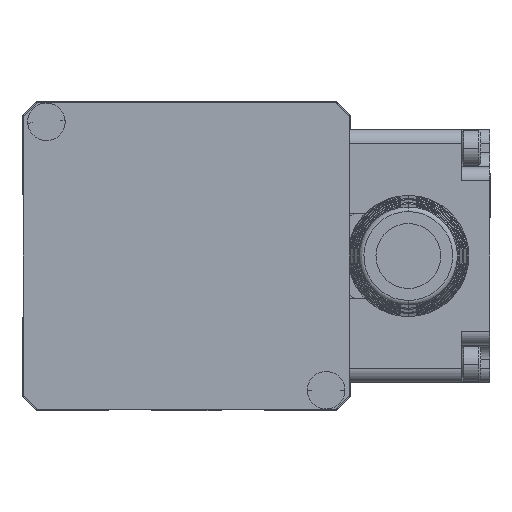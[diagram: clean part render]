
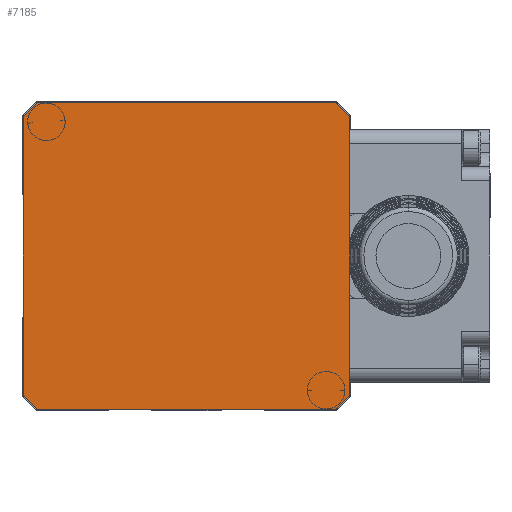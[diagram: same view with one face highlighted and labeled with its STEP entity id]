
A CAD part, front view. The second image highlights one B-rep face of the part: STEP entity #7185.
In plain terms, the highlighted planar face has unit normal (0, -1, 0).
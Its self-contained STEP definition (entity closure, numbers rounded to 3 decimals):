
#269 = EDGE_LOOP ( 'NONE', ( #10942, #4807, #19112, #9821, #24475, #18297, #7223, #3336 ) ) ;
#690 = CARTESIAN_POINT ( 'NONE',  ( 15.85, -22.5, -15.35 ) ) ;
#857 = VECTOR ( 'NONE', #19762, 1000. ) ;
#1185 = DIRECTION ( 'NONE',  ( 0.707, 0., 0.707 ) ) ;
#2061 = VERTEX_POINT ( 'NONE', #7146 ) ;
#2142 = DIRECTION ( 'NONE',  ( 0., 0., 1. ) ) ;
#2730 = CARTESIAN_POINT ( 'NONE',  ( -17.35, -22.5, 17.35 ) ) ;
#3285 = EDGE_CURVE ( 'NONE', #11824, #24289, #18587, .T. ) ;
#3336 = ORIENTED_EDGE ( 'NONE', *, *, #15272, .F. ) ;
#4056 = CARTESIAN_POINT ( 'NONE',  ( -15.85, -22.5, -15.35 ) ) ;
#4807 = ORIENTED_EDGE ( 'NONE', *, *, #8003, .F. ) ;
#5267 = VECTOR ( 'NONE', #21750, 1000. ) ;
#5325 = CARTESIAN_POINT ( 'NONE',  ( 15.85, -22.5, -15.35 ) ) ;
#5580 = VERTEX_POINT ( 'NONE', #6233 ) ;
#6233 = CARTESIAN_POINT ( 'NONE',  ( 15.85, -22.5, 17.35 ) ) ;
#6642 = VERTEX_POINT ( 'NONE', #690 ) ;
#6690 = VERTEX_POINT ( 'NONE', #21475 ) ;
#7104 = FACE_OUTER_BOUND ( 'NONE', #269, .T. ) ;
#7146 = CARTESIAN_POINT ( 'NONE',  ( -17.35, -22.5, 15.85 ) ) ;
#7185 = ADVANCED_FACE ( 'NONE', ( #7104 ), #15548, .F. ) ;
#7223 = ORIENTED_EDGE ( 'NONE', *, *, #3285, .T. ) ;
#8003 = EDGE_CURVE ( 'NONE', #24939, #6690, #19374, .T. ) ;
#8087 = CARTESIAN_POINT ( 'NONE',  ( -17.35, -22.5, -15.35 ) ) ;
#8842 = CARTESIAN_POINT ( 'NONE',  ( 17.35, -22.5, -15.35 ) ) ;
#9821 = ORIENTED_EDGE ( 'NONE', *, *, #19923, .F. ) ;
#9921 = VECTOR ( 'NONE', #20146, 1000. ) ;
#10407 = CARTESIAN_POINT ( 'NONE',  ( -17.35, -22.5, -13.85 ) ) ;
#10595 = VERTEX_POINT ( 'NONE', #17057 ) ;
#10743 = CARTESIAN_POINT ( 'NONE',  ( -17.35, -22.5, -15.35 ) ) ;
#10908 = LINE ( 'NONE', #24645, #11106 ) ;
#10942 = ORIENTED_EDGE ( 'NONE', *, *, #12232, .T. ) ;
#11106 = VECTOR ( 'NONE', #26854, 1000. ) ;
#11824 = VERTEX_POINT ( 'NONE', #24896 ) ;
#12232 = EDGE_CURVE ( 'NONE', #6642, #6690, #15824, .T. ) ;
#12809 = LINE ( 'NONE', #10743, #9921 ) ;
#15272 = EDGE_CURVE ( 'NONE', #6642, #24289, #12809, .T. ) ;
#15548 = PLANE ( 'NONE',  #17661 ) ;
#15824 = LINE ( 'NONE', #5325, #16906 ) ;
#16069 = EDGE_CURVE ( 'NONE', #11824, #2061, #20844, .T. ) ;
#16126 = DIRECTION ( 'NONE',  ( -0.707, 0., -0.707 ) ) ;
#16906 = VECTOR ( 'NONE', #1185, 1000. ) ;
#17057 = CARTESIAN_POINT ( 'NONE',  ( -15.85, -22.5, 17.35 ) ) ;
#17661 = AXIS2_PLACEMENT_3D ( 'NONE', #23985, #20818, #18167 ) ;
#17735 = VECTOR ( 'NONE', #27009, 1000. ) ;
#18167 = DIRECTION ( 'NONE',  ( 1., 0., 0. ) ) ;
#18297 = ORIENTED_EDGE ( 'NONE', *, *, #16069, .F. ) ;
#18472 = EDGE_CURVE ( 'NONE', #24939, #5580, #10908, .T. ) ;
#18587 = LINE ( 'NONE', #10407, #17735 ) ;
#19112 = ORIENTED_EDGE ( 'NONE', *, *, #18472, .T. ) ;
#19374 = LINE ( 'NONE', #8842, #5267 ) ;
#19762 = DIRECTION ( 'NONE',  ( 1., 0., 0. ) ) ;
#19923 = EDGE_CURVE ( 'NONE', #10595, #5580, #23346, .T. ) ;
#20146 = DIRECTION ( 'NONE',  ( -1., 0., 0. ) ) ;
#20177 = VECTOR ( 'NONE', #16126, 1000. ) ;
#20593 = VECTOR ( 'NONE', #2142, 1000. ) ;
#20818 = DIRECTION ( 'NONE',  ( 0., 1., 0. ) ) ;
#20844 = LINE ( 'NONE', #8087, #20593 ) ;
#21475 = CARTESIAN_POINT ( 'NONE',  ( 17.35, -22.5, -13.85 ) ) ;
#21750 = DIRECTION ( 'NONE',  ( 0., 0., -1. ) ) ;
#23131 = CARTESIAN_POINT ( 'NONE',  ( 17.35, -22.5, 15.85 ) ) ;
#23346 = LINE ( 'NONE', #2730, #857 ) ;
#23792 = EDGE_CURVE ( 'NONE', #10595, #2061, #26370, .T. ) ;
#23985 = CARTESIAN_POINT ( 'NONE',  ( 0., -22.5, 1. ) ) ;
#24031 = CARTESIAN_POINT ( 'NONE',  ( -15.85, -22.5, 17.35 ) ) ;
#24289 = VERTEX_POINT ( 'NONE', #4056 ) ;
#24475 = ORIENTED_EDGE ( 'NONE', *, *, #23792, .T. ) ;
#24645 = CARTESIAN_POINT ( 'NONE',  ( 17.35, -22.5, 15.85 ) ) ;
#24896 = CARTESIAN_POINT ( 'NONE',  ( -17.35, -22.5, -13.85 ) ) ;
#24939 = VERTEX_POINT ( 'NONE', #23131 ) ;
#26370 = LINE ( 'NONE', #24031, #20177 ) ;
#26854 = DIRECTION ( 'NONE',  ( -0.707, 0., 0.707 ) ) ;
#27009 = DIRECTION ( 'NONE',  ( 0.707, 0., -0.707 ) ) ;
